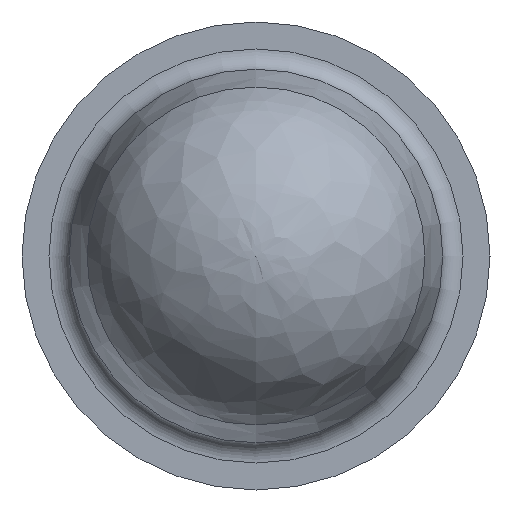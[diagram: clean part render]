
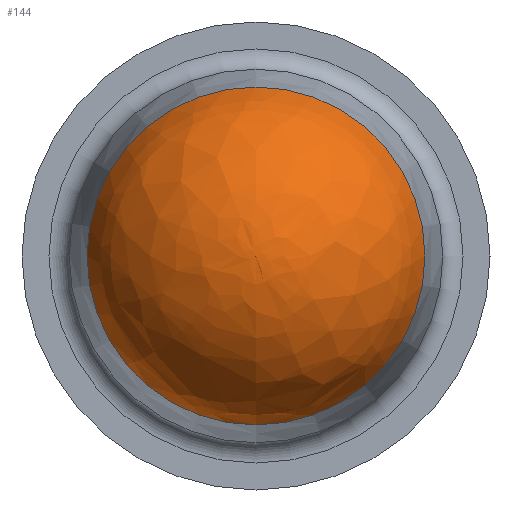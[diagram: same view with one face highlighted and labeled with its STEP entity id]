
A CAD part, left-side view. The second image highlights one B-rep face of the part: STEP entity #144.
In plain terms, the highlighted free-form (B-spline) face has degree [2, 2] with [3, 9] control points.
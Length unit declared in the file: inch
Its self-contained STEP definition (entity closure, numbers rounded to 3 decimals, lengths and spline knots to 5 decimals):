
#15=(
BOUNDED_SURFACE()
B_SPLINE_SURFACE(2,2,((#271,#272,#273,#274,#275,#276,#277,#278,#279),(#280,
#281,#282,#283,#284,#285,#286,#287,#288),(#289,#290,#291,#292,#293,#294,
#295,#296,#297)),.UNSPECIFIED.,.F.,.T.,.F.)
B_SPLINE_SURFACE_WITH_KNOTS((3,3),(3,2,2,2,3),(0.28043,1.55166),
(-3.14159,-1.5708,0.,1.5708,3.14159),
 .UNSPECIFIED.)
GEOMETRIC_REPRESENTATION_ITEM()
RATIONAL_B_SPLINE_SURFACE(((1.,0.707,1.,0.707,1.,
0.707,1.,0.707,1.),(0.805,0.569,
0.805,0.569,0.805,0.569,
0.805,0.569,0.805),(1.,0.707,
1.,0.707,1.,0.707,1.,0.707,1.)))
REPRESENTATION_ITEM('')
SURFACE()
);
#35=FACE_OUTER_BOUND('',#44,.T.);
#44=EDGE_LOOP('',(#121,#122,#123,#124));
#55=CIRCLE('',#178,0.16477);
#56=CIRCLE('',#179,0.16477);
#59=CIRCLE('',#183,0.17495);
#70=VERTEX_POINT('',#260);
#71=VERTEX_POINT('',#261);
#74=VERTEX_POINT('',#298);
#86=EDGE_CURVE('',#70,#71,#55,.T.);
#87=EDGE_CURVE('',#71,#70,#56,.T.);
#92=EDGE_CURVE('',#74,#71,#59,.T.);
#121=ORIENTED_EDGE('',*,*,#92,.T.);
#122=ORIENTED_EDGE('',*,*,#87,.T.);
#123=ORIENTED_EDGE('',*,*,#86,.T.);
#124=ORIENTED_EDGE('',*,*,#92,.F.);
#144=ADVANCED_FACE('',(#35),#15,.F.);
#178=AXIS2_PLACEMENT_3D('',#262,#213,#214);
#179=AXIS2_PLACEMENT_3D('',#263,#215,#216);
#183=AXIS2_PLACEMENT_3D('',#299,#225,#226);
#213=DIRECTION('center_axis',(-1.,0.,0.));
#214=DIRECTION('ref_axis',(0.,0.,1.));
#215=DIRECTION('center_axis',(-1.,0.,0.));
#216=DIRECTION('ref_axis',(0.,0.,1.));
#225=DIRECTION('center_axis',(0.,-1.,0.));
#226=DIRECTION('ref_axis',(0.,0.,-1.));
#260=CARTESIAN_POINT('',(-0.12299,0.,0.16477));
#261=CARTESIAN_POINT('',(-0.12299,0.,-0.16477));
#262=CARTESIAN_POINT('Origin',(-0.12299,0.,0.));
#263=CARTESIAN_POINT('Origin',(-0.12299,0.,0.));
#271=CARTESIAN_POINT('Ctrl Pts',(-0.12299,0.,-0.16477));
#272=CARTESIAN_POINT('Ctrl Pts',(-0.12299,-0.16477,
-0.16477));
#273=CARTESIAN_POINT('Ctrl Pts',(-0.12299,-0.16477,
0.));
#274=CARTESIAN_POINT('Ctrl Pts',(-0.12299,-0.16477,
0.16477));
#275=CARTESIAN_POINT('Ctrl Pts',(-0.12299,0.,0.16477));
#276=CARTESIAN_POINT('Ctrl Pts',(-0.12299,0.16477,0.16477));
#277=CARTESIAN_POINT('Ctrl Pts',(-0.12299,0.16477,0.));
#278=CARTESIAN_POINT('Ctrl Pts',(-0.12299,0.16477,-0.16477));
#279=CARTESIAN_POINT('Ctrl Pts',(-0.12299,0.,-0.16477));
#280=CARTESIAN_POINT('Ctrl Pts',(-0.24701,0.,-0.12904));
#281=CARTESIAN_POINT('Ctrl Pts',(-0.24701,-0.12904,
-0.12904));
#282=CARTESIAN_POINT('Ctrl Pts',(-0.24701,-0.12904,
0.));
#283=CARTESIAN_POINT('Ctrl Pts',(-0.24701,-0.12904,
0.12904));
#284=CARTESIAN_POINT('Ctrl Pts',(-0.24701,0.,0.12904));
#285=CARTESIAN_POINT('Ctrl Pts',(-0.24701,0.12904,0.12904));
#286=CARTESIAN_POINT('Ctrl Pts',(-0.24701,0.12904,0.));
#287=CARTESIAN_POINT('Ctrl Pts',(-0.24701,0.12904,-0.12904));
#288=CARTESIAN_POINT('Ctrl Pts',(-0.24701,0.,-0.12904));
#289=CARTESIAN_POINT('Ctrl Pts',(-0.24949,0.,0.));
#290=CARTESIAN_POINT('Ctrl Pts',(-0.24949,0.,0.));
#291=CARTESIAN_POINT('Ctrl Pts',(-0.24949,0.,0.));
#292=CARTESIAN_POINT('Ctrl Pts',(-0.24949,0.,0.));
#293=CARTESIAN_POINT('Ctrl Pts',(-0.24949,0.,0.));
#294=CARTESIAN_POINT('Ctrl Pts',(-0.24949,0.,0.));
#295=CARTESIAN_POINT('Ctrl Pts',(-0.24949,0.,0.));
#296=CARTESIAN_POINT('Ctrl Pts',(-0.24949,0.,0.));
#297=CARTESIAN_POINT('Ctrl Pts',(-0.24949,0.,0.));
#298=CARTESIAN_POINT('',(-0.24949,0.,0.));
#299=CARTESIAN_POINT('Origin',(-0.07457,0.,
0.00335));
